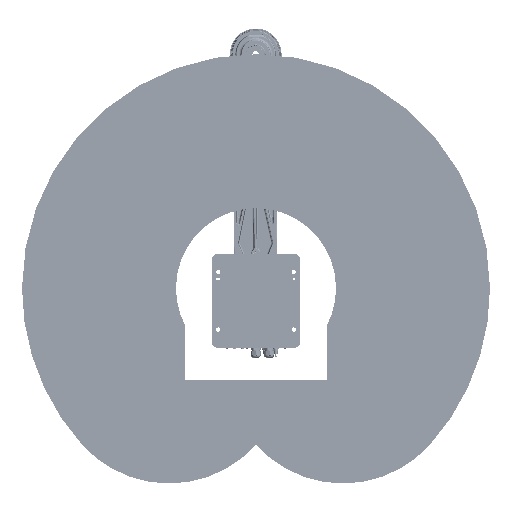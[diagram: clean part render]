
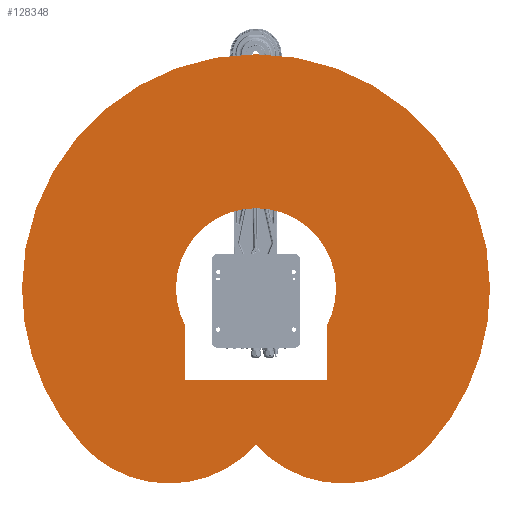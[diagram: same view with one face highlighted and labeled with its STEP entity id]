
A CAD part, front view. The second image highlights one B-rep face of the part: STEP entity #128348.
In plain terms, the highlighted planar face has unit normal (0, -1, 0) as drawn and (0, 0, 1) by its records, which use the part's own axes.
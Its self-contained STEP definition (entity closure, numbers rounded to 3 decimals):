
#9248 = ORIENTED_EDGE ( 'NONE', *, *, #159236, .T. ) ;
#12441 = CARTESIAN_POINT ( 'NONE',  ( 0., -217.467, 208. ) ) ;
#14872 = CARTESIAN_POINT ( 'NONE',  ( 196., -255., 208. ) ) ;
#21613 = DIRECTION ( 'NONE',  ( 0., 0., 1. ) ) ;
#30898 = CIRCLE ( 'NONE', #152401, 325. ) ;
#31982 = EDGE_CURVE ( 'NONE', #35657, #224856, #272363, .T. ) ;
#34118 = ORIENTED_EDGE ( 'NONE', *, *, #139180, .T. ) ;
#35657 = VERTEX_POINT ( 'NONE', #47345 ) ;
#39731 = VERTEX_POINT ( 'NONE', #119101 ) ;
#42492 = DIRECTION ( 'NONE',  ( 0., 0., 1. ) ) ;
#47345 = CARTESIAN_POINT ( 'NONE',  ( -222.313, 0., 208. ) ) ;
#48141 = CARTESIAN_POINT ( 'NONE',  ( 241.522, -217.467, 208. ) ) ;
#48949 = CARTESIAN_POINT ( 'NONE',  ( 0., 0., 208. ) ) ;
#52107 = FACE_OUTER_BOUND ( 'NONE', #173733, .T. ) ;
#55309 = VERTEX_POINT ( 'NONE', #132406 ) ;
#63074 = DIRECTION ( 'NONE',  ( 1., 0., 0. ) ) ;
#63314 = ORIENTED_EDGE ( 'NONE', *, *, #81585, .F. ) ;
#73072 = LINE ( 'NONE', #159502, #172529 ) ;
#74898 = EDGE_CURVE ( 'NONE', #240191, #188541, #73072, .T. ) ;
#77230 = EDGE_CURVE ( 'NONE', #171248, #236122, #257084, .T. ) ;
#77513 = CARTESIAN_POINT ( 'NONE',  ( 0., -434.935, 208. ) ) ;
#78866 = EDGE_CURVE ( 'NONE', #224856, #55309, #176005, .T. ) ;
#78928 = LINE ( 'NONE', #168263, #219559 ) ;
#79878 = FACE_BOUND ( 'NONE', #244933, .T. ) ;
#81585 = EDGE_CURVE ( 'NONE', #188541, #197438, #212523, .T. ) ;
#82008 = CIRCLE ( 'NONE', #198805, 222.313 ) ;
#85544 = CARTESIAN_POINT ( 'NONE',  ( 196., -104.915, 208. ) ) ;
#87673 = ORIENTED_EDGE ( 'NONE', *, *, #77230, .T. ) ;
#91507 = CARTESIAN_POINT ( 'NONE',  ( 650., 0., 208. ) ) ;
#95050 = DIRECTION ( 'NONE',  ( 0., 1., 0. ) ) ;
#97625 = VERTEX_POINT ( 'NONE', #77513 ) ;
#98950 = PLANE ( 'NONE',  #264338 ) ;
#108926 = CIRCLE ( 'NONE', #188426, 325. ) ;
#110999 = DIRECTION ( 'NONE',  ( 1., 0., 0. ) ) ;
#112277 = CARTESIAN_POINT ( 'NONE',  ( -196., -104.915, 208. ) ) ;
#119101 = CARTESIAN_POINT ( 'NONE',  ( 483.044, -434.935, 208. ) ) ;
#120121 = CARTESIAN_POINT ( 'NONE',  ( 222.313, 0., 208. ) ) ;
#122529 = DIRECTION ( 'NONE',  ( 1., 0., 0. ) ) ;
#123696 = CARTESIAN_POINT ( 'NONE',  ( -241.522, -217.467, 208. ) ) ;
#128348 = ADVANCED_FACE ( 'NONE', ( #79878, #52107 ), #98950, .F. ) ;
#128361 = CARTESIAN_POINT ( 'NONE',  ( -483.044, -434.935, 208. ) ) ;
#128864 = ORIENTED_EDGE ( 'NONE', *, *, #74898, .F. ) ;
#129710 = ORIENTED_EDGE ( 'NONE', *, *, #261036, .F. ) ;
#130863 = AXIS2_PLACEMENT_3D ( 'NONE', #48949, #207089, #185172 ) ;
#131663 = VECTOR ( 'NONE', #185738, 1000. ) ;
#132406 = CARTESIAN_POINT ( 'NONE',  ( -196., -255., 208. ) ) ;
#137462 = ORIENTED_EDGE ( 'NONE', *, *, #286705, .T. ) ;
#139180 = EDGE_CURVE ( 'NONE', #236122, #97625, #108926, .T. ) ;
#145296 = CIRCLE ( 'NONE', #196752, 650. ) ;
#147178 = DIRECTION ( 'NONE',  ( 0., 0., -1. ) ) ;
#148024 = DIRECTION ( 'NONE',  ( 1., 0., 0. ) ) ;
#150946 = CARTESIAN_POINT ( 'NONE',  ( 0., 0., 208. ) ) ;
#152401 = AXIS2_PLACEMENT_3D ( 'NONE', #48141, #187227, #229620 ) ;
#156739 = CARTESIAN_POINT ( 'NONE',  ( -650., 0., 208. ) ) ;
#158447 = CARTESIAN_POINT ( 'NONE',  ( 0., 0., 208. ) ) ;
#159236 = EDGE_CURVE ( 'NONE', #39731, #241492, #145296, .T. ) ;
#159502 = CARTESIAN_POINT ( 'NONE',  ( 196., -104.915, 208. ) ) ;
#168263 = CARTESIAN_POINT ( 'NONE',  ( -196., -255., 208. ) ) ;
#171248 = VERTEX_POINT ( 'NONE', #156739 ) ;
#171525 = DIRECTION ( 'NONE',  ( 0., 0., 1. ) ) ;
#172529 = VECTOR ( 'NONE', #95050, 1000. ) ;
#173733 = EDGE_LOOP ( 'NONE', ( #137462, #9248, #190357, #87673, #34118 ) ) ;
#176005 = LINE ( 'NONE', #232419, #131663 ) ;
#178025 = ORIENTED_EDGE ( 'NONE', *, *, #78866, .F. ) ;
#183580 = AXIS2_PLACEMENT_3D ( 'NONE', #150946, #171525, #240213 ) ;
#185172 = DIRECTION ( 'NONE',  ( 1., 0., 0. ) ) ;
#185738 = DIRECTION ( 'NONE',  ( 0., -1., 0. ) ) ;
#186403 = ORIENTED_EDGE ( 'NONE', *, *, #31982, .F. ) ;
#187037 = DIRECTION ( 'NONE',  ( 0., 0., 1. ) ) ;
#187227 = DIRECTION ( 'NONE',  ( 0., 0., 1. ) ) ;
#187489 = AXIS2_PLACEMENT_3D ( 'NONE', #233739, #187037, #122529 ) ;
#188426 = AXIS2_PLACEMENT_3D ( 'NONE', #123696, #237796, #256923 ) ;
#188541 = VERTEX_POINT ( 'NONE', #85544 ) ;
#190357 = ORIENTED_EDGE ( 'NONE', *, *, #272541, .T. ) ;
#190537 = DIRECTION ( 'NONE',  ( 0., 0., 1. ) ) ;
#196752 = AXIS2_PLACEMENT_3D ( 'NONE', #222236, #21613, #110999 ) ;
#197438 = VERTEX_POINT ( 'NONE', #120121 ) ;
#198805 = AXIS2_PLACEMENT_3D ( 'NONE', #158447, #190537, #148024 ) ;
#200620 = CARTESIAN_POINT ( 'NONE',  ( 0., 0., 208. ) ) ;
#207089 = DIRECTION ( 'NONE',  ( 0., 0., 1. ) ) ;
#212523 = CIRCLE ( 'NONE', #259355, 222.313 ) ;
#215412 = CIRCLE ( 'NONE', #187489, 650. ) ;
#219559 = VECTOR ( 'NONE', #257562, 1000. ) ;
#222236 = CARTESIAN_POINT ( 'NONE',  ( 0., 0., 208. ) ) ;
#224856 = VERTEX_POINT ( 'NONE', #112277 ) ;
#229620 = DIRECTION ( 'NONE',  ( -1., 0., 0. ) ) ;
#232419 = CARTESIAN_POINT ( 'NONE',  ( -196., -104.915, 208. ) ) ;
#233739 = CARTESIAN_POINT ( 'NONE',  ( 0., 0., 208. ) ) ;
#236122 = VERTEX_POINT ( 'NONE', #128361 ) ;
#236753 = ORIENTED_EDGE ( 'NONE', *, *, #285568, .F. ) ;
#237796 = DIRECTION ( 'NONE',  ( 0., 0., 1. ) ) ;
#240191 = VERTEX_POINT ( 'NONE', #14872 ) ;
#240213 = DIRECTION ( 'NONE',  ( 1., 0., 0. ) ) ;
#241492 = VERTEX_POINT ( 'NONE', #91507 ) ;
#244933 = EDGE_LOOP ( 'NONE', ( #63314, #128864, #129710, #178025, #186403, #236753 ) ) ;
#254109 = DIRECTION ( 'NONE',  ( 0., -1., 0. ) ) ;
#256923 = DIRECTION ( 'NONE',  ( 1., 0., 0. ) ) ;
#257084 = CIRCLE ( 'NONE', #130863, 650. ) ;
#257562 = DIRECTION ( 'NONE',  ( 1., 0., 0. ) ) ;
#259355 = AXIS2_PLACEMENT_3D ( 'NONE', #200620, #42492, #63074 ) ;
#261036 = EDGE_CURVE ( 'NONE', #55309, #240191, #78928, .T. ) ;
#264338 = AXIS2_PLACEMENT_3D ( 'NONE', #12441, #147178, #254109 ) ;
#272363 = CIRCLE ( 'NONE', #183580, 222.313 ) ;
#272541 = EDGE_CURVE ( 'NONE', #241492, #171248, #215412, .T. ) ;
#285568 = EDGE_CURVE ( 'NONE', #197438, #35657, #82008, .T. ) ;
#286705 = EDGE_CURVE ( 'NONE', #97625, #39731, #30898, .T. ) ;
